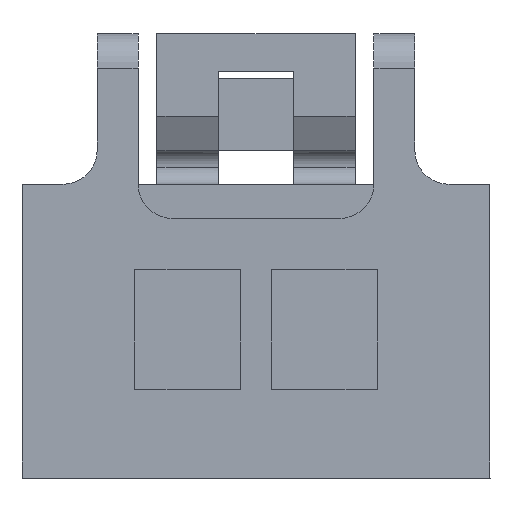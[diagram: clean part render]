
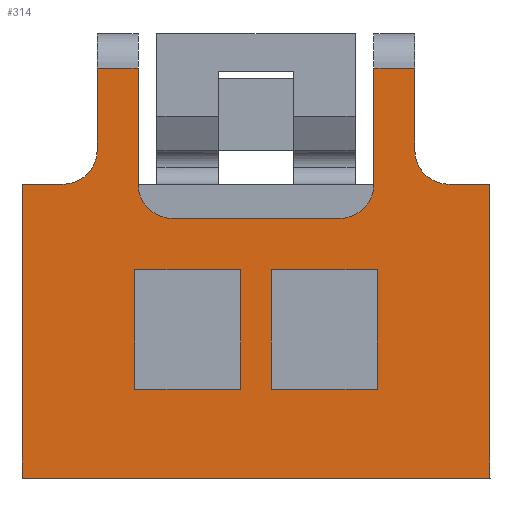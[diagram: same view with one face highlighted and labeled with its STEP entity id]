
A CAD part, left-side view. The second image highlights one B-rep face of the part: STEP entity #314.
In plain terms, the highlighted planar face has unit normal (-1, 0, 0).
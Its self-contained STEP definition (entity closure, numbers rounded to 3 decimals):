
#57=CARTESIAN_POINT('Line Origine',(-21.,-4.65,6.2)) ;
#61=CARTESIAN_POINT('Vertex',(-21.,-4.65,7.4)) ;
#63=CARTESIAN_POINT('Vertex',(-21.,-4.65,5.)) ;
#108=CARTESIAN_POINT('Axis2P3D Location',(-21.,0.,0.)) ;
#113=CARTESIAN_POINT('Axis2P3D Location',(-21.,-2.45,4.)) ;
#117=CARTESIAN_POINT('Vertex',(-21.,-3.45,4.)) ;
#119=CARTESIAN_POINT('Vertex',(-21.,-2.45,3.)) ;
#122=CARTESIAN_POINT('Line Origine',(-21.,0.,3.)) ;
#126=CARTESIAN_POINT('Vertex',(-21.,2.45,3.)) ;
#129=CARTESIAN_POINT('Axis2P3D Location',(-21.,2.45,4.)) ;
#133=CARTESIAN_POINT('Vertex',(-21.,3.45,4.)) ;
#136=CARTESIAN_POINT('Line Origine',(-21.,3.45,5.7)) ;
#140=CARTESIAN_POINT('Vertex',(-21.,3.45,7.4)) ;
#143=CARTESIAN_POINT('Line Origine',(-21.,4.05,7.4)) ;
#147=CARTESIAN_POINT('Vertex',(-21.,4.65,7.4)) ;
#150=CARTESIAN_POINT('Line Origine',(-21.,4.65,6.2)) ;
#154=CARTESIAN_POINT('Vertex',(-21.,4.65,5.)) ;
#158=CARTESIAN_POINT('Control Point',(-21.,5.65,4.)) ;
#159=CARTESIAN_POINT('Control Point',(-21.,5.552,4.)) ;
#160=CARTESIAN_POINT('Control Point',(-21.,5.454,4.012)) ;
#161=CARTESIAN_POINT('Control Point',(-21.,5.358,4.036)) ;
#162=CARTESIAN_POINT('Control Point',(-21.,5.174,4.107)) ;
#163=CARTESIAN_POINT('Control Point',(-21.,5.012,4.22)) ;
#164=CARTESIAN_POINT('Control Point',(-21.,4.939,4.287)) ;
#165=CARTESIAN_POINT('Control Point',(-21.,4.81,4.436)) ;
#166=CARTESIAN_POINT('Control Point',(-21.,4.72,4.612)) ;
#167=CARTESIAN_POINT('Control Point',(-21.,4.687,4.705)) ;
#168=CARTESIAN_POINT('Control Point',(-21.,4.66,4.821)) ;
#169=CARTESIAN_POINT('Control Point',(-21.,4.652,4.939)) ;
#170=CARTESIAN_POINT('Control Point',(-21.,4.651,4.96)) ;
#171=CARTESIAN_POINT('Control Point',(-21.,4.65,4.98)) ;
#172=CARTESIAN_POINT('Control Point',(-21.,4.65,5.)) ;
#173=CARTESIAN_POINT('Vertex',(-21.,5.65,4.)) ;
#176=CARTESIAN_POINT('Line Origine',(-21.,6.25,4.)) ;
#180=CARTESIAN_POINT('Vertex',(-21.,6.85,4.)) ;
#183=CARTESIAN_POINT('Line Origine',(-21.,6.85,-0.3)) ;
#187=CARTESIAN_POINT('Vertex',(-21.,6.85,-4.6)) ;
#190=CARTESIAN_POINT('Line Origine',(-21.,0.,-4.6)) ;
#194=CARTESIAN_POINT('Vertex',(-21.,-6.85,-4.6)) ;
#197=CARTESIAN_POINT('Line Origine',(-21.,-6.85,-0.3)) ;
#201=CARTESIAN_POINT('Vertex',(-21.,-6.85,4.)) ;
#204=CARTESIAN_POINT('Line Origine',(-21.,-6.25,4.)) ;
#208=CARTESIAN_POINT('Vertex',(-21.,-5.65,4.)) ;
#211=CARTESIAN_POINT('Axis2P3D Location',(-21.,-5.65,5.)) ;
#216=CARTESIAN_POINT('Line Origine',(-21.,-4.05,7.4)) ;
#220=CARTESIAN_POINT('Vertex',(-21.,-3.45,7.4)) ;
#223=CARTESIAN_POINT('Line Origine',(-21.,-3.45,5.7)) ;
#246=CARTESIAN_POINT('Line Origine',(-21.,2.,-2.)) ;
#250=CARTESIAN_POINT('Vertex',(-21.,0.45,-2.)) ;
#252=CARTESIAN_POINT('Vertex',(-21.,3.55,-2.)) ;
#255=CARTESIAN_POINT('Line Origine',(-21.,3.55,-0.25)) ;
#259=CARTESIAN_POINT('Vertex',(-21.,3.55,1.5)) ;
#262=CARTESIAN_POINT('Line Origine',(-21.,2.,1.5)) ;
#266=CARTESIAN_POINT('Vertex',(-21.,0.45,1.5)) ;
#269=CARTESIAN_POINT('Line Origine',(-21.,0.45,-0.25)) ;
#280=CARTESIAN_POINT('Line Origine',(-21.,-2.,1.5)) ;
#284=CARTESIAN_POINT('Vertex',(-21.,-3.55,1.5)) ;
#286=CARTESIAN_POINT('Vertex',(-21.,-0.45,1.5)) ;
#289=CARTESIAN_POINT('Line Origine',(-21.,-3.55,-0.25)) ;
#293=CARTESIAN_POINT('Vertex',(-21.,-3.55,-2.)) ;
#296=CARTESIAN_POINT('Line Origine',(-21.,-2.,-2.)) ;
#300=CARTESIAN_POINT('Vertex',(-21.,-0.45,-2.)) ;
#303=CARTESIAN_POINT('Line Origine',(-21.,-0.45,-0.25)) ;
#58=DIRECTION('Vector Direction',(0.,0.,-1.)) ;
#109=DIRECTION('Axis2P3D Direction',(1.,0.,0.)) ;
#110=DIRECTION('Axis2P3D XDirection',(0.,1.,0.)) ;
#114=DIRECTION('Axis2P3D Direction',(1.,0.,0.)) ;
#123=DIRECTION('Vector Direction',(0.,-1.,0.)) ;
#130=DIRECTION('Axis2P3D Direction',(1.,0.,0.)) ;
#137=DIRECTION('Vector Direction',(0.,0.,-1.)) ;
#144=DIRECTION('Vector Direction',(0.,-1.,0.)) ;
#151=DIRECTION('Vector Direction',(0.,0.,-1.)) ;
#177=DIRECTION('Vector Direction',(0.,-1.,0.)) ;
#184=DIRECTION('Vector Direction',(0.,0.,1.)) ;
#191=DIRECTION('Vector Direction',(0.,-1.,0.)) ;
#198=DIRECTION('Vector Direction',(0.,0.,1.)) ;
#205=DIRECTION('Vector Direction',(0.,-1.,0.)) ;
#212=DIRECTION('Axis2P3D Direction',(1.,0.,0.)) ;
#217=DIRECTION('Vector Direction',(0.,-1.,0.)) ;
#224=DIRECTION('Vector Direction',(0.,0.,-1.)) ;
#247=DIRECTION('Vector Direction',(0.,-1.,0.)) ;
#256=DIRECTION('Vector Direction',(0.,0.,-1.)) ;
#263=DIRECTION('Vector Direction',(0.,1.,0.)) ;
#270=DIRECTION('Vector Direction',(0.,0.,1.)) ;
#281=DIRECTION('Vector Direction',(0.,1.,0.)) ;
#290=DIRECTION('Vector Direction',(0.,0.,-1.)) ;
#297=DIRECTION('Vector Direction',(0.,-1.,0.)) ;
#304=DIRECTION('Vector Direction',(0.,0.,1.)) ;
#111=AXIS2_PLACEMENT_3D('Plane Axis2P3D',#108,#109,#110) ;
#115=AXIS2_PLACEMENT_3D('Circle Axis2P3D',#113,#114,$) ;
#131=AXIS2_PLACEMENT_3D('Circle Axis2P3D',#129,#130,$) ;
#213=AXIS2_PLACEMENT_3D('Circle Axis2P3D',#211,#212,$) ;
#229=ORIENTED_EDGE('',*,*,#121,.T.) ;
#230=ORIENTED_EDGE('',*,*,#128,.T.) ;
#231=ORIENTED_EDGE('',*,*,#135,.F.) ;
#232=ORIENTED_EDGE('',*,*,#142,.F.) ;
#233=ORIENTED_EDGE('',*,*,#149,.T.) ;
#234=ORIENTED_EDGE('',*,*,#156,.T.) ;
#235=ORIENTED_EDGE('',*,*,#175,.F.) ;
#236=ORIENTED_EDGE('',*,*,#182,.T.) ;
#237=ORIENTED_EDGE('',*,*,#189,.F.) ;
#238=ORIENTED_EDGE('',*,*,#196,.F.) ;
#239=ORIENTED_EDGE('',*,*,#203,.T.) ;
#240=ORIENTED_EDGE('',*,*,#210,.F.) ;
#241=ORIENTED_EDGE('',*,*,#215,.T.) ;
#242=ORIENTED_EDGE('',*,*,#65,.F.) ;
#243=ORIENTED_EDGE('',*,*,#222,.F.) ;
#244=ORIENTED_EDGE('',*,*,#227,.T.) ;
#275=ORIENTED_EDGE('',*,*,#254,.T.) ;
#276=ORIENTED_EDGE('',*,*,#261,.F.) ;
#277=ORIENTED_EDGE('',*,*,#268,.T.) ;
#278=ORIENTED_EDGE('',*,*,#273,.F.) ;
#309=ORIENTED_EDGE('',*,*,#288,.F.) ;
#310=ORIENTED_EDGE('',*,*,#295,.T.) ;
#311=ORIENTED_EDGE('',*,*,#302,.F.) ;
#312=ORIENTED_EDGE('',*,*,#307,.T.) ;
#279=FACE_BOUND('',#274,.T.) ;
#313=FACE_BOUND('',#308,.T.) ;
#59=VECTOR('Line Direction',#58,1.) ;
#124=VECTOR('Line Direction',#123,1.) ;
#138=VECTOR('Line Direction',#137,1.) ;
#145=VECTOR('Line Direction',#144,1.) ;
#152=VECTOR('Line Direction',#151,1.) ;
#178=VECTOR('Line Direction',#177,1.) ;
#185=VECTOR('Line Direction',#184,1.) ;
#192=VECTOR('Line Direction',#191,1.) ;
#199=VECTOR('Line Direction',#198,1.) ;
#206=VECTOR('Line Direction',#205,1.) ;
#218=VECTOR('Line Direction',#217,1.) ;
#225=VECTOR('Line Direction',#224,1.) ;
#248=VECTOR('Line Direction',#247,1.) ;
#257=VECTOR('Line Direction',#256,1.) ;
#264=VECTOR('Line Direction',#263,1.) ;
#271=VECTOR('Line Direction',#270,1.) ;
#282=VECTOR('Line Direction',#281,1.) ;
#291=VECTOR('Line Direction',#290,1.) ;
#298=VECTOR('Line Direction',#297,1.) ;
#305=VECTOR('Line Direction',#304,1.) ;
#314=ADVANCED_FACE('Body',(#245,#279,#313),#112,.F.) ;
#157=B_SPLINE_CURVE_WITH_KNOTS('',5,(#158,#159,#160,#161,#162,#163,#164,#165,#166,#167,#168,#169,#170,#171,#172),.UNSPECIFIED.,.F.,.U.,(6,3,3,3,6),(0.,0.693,1.386,2.078,2.221),.UNSPECIFIED.) ;
#116=CIRCLE('generated circle',#115,1.) ;
#132=CIRCLE('generated circle',#131,1.) ;
#214=CIRCLE('generated circle',#213,1.) ;
#65=EDGE_CURVE('',#62,#64,#60,.T.) ;
#121=EDGE_CURVE('',#118,#120,#116,.T.) ;
#128=EDGE_CURVE('',#120,#127,#125,.F.) ;
#135=EDGE_CURVE('',#134,#127,#132,.F.) ;
#142=EDGE_CURVE('',#141,#134,#139,.T.) ;
#149=EDGE_CURVE('',#141,#148,#146,.F.) ;
#156=EDGE_CURVE('',#148,#155,#153,.T.) ;
#175=EDGE_CURVE('',#174,#155,#157,.T.) ;
#182=EDGE_CURVE('',#174,#181,#179,.F.) ;
#189=EDGE_CURVE('',#188,#181,#186,.T.) ;
#196=EDGE_CURVE('',#195,#188,#193,.F.) ;
#203=EDGE_CURVE('',#195,#202,#200,.T.) ;
#210=EDGE_CURVE('',#209,#202,#207,.T.) ;
#215=EDGE_CURVE('',#209,#64,#214,.T.) ;
#222=EDGE_CURVE('',#221,#62,#219,.T.) ;
#227=EDGE_CURVE('',#221,#118,#226,.T.) ;
#254=EDGE_CURVE('',#251,#253,#249,.F.) ;
#261=EDGE_CURVE('',#260,#253,#258,.T.) ;
#268=EDGE_CURVE('',#260,#267,#265,.F.) ;
#273=EDGE_CURVE('',#251,#267,#272,.T.) ;
#288=EDGE_CURVE('',#285,#287,#283,.T.) ;
#295=EDGE_CURVE('',#285,#294,#292,.T.) ;
#302=EDGE_CURVE('',#301,#294,#299,.T.) ;
#307=EDGE_CURVE('',#301,#287,#306,.T.) ;
#228=EDGE_LOOP('',(#229,#230,#231,#232,#233,#234,#235,#236,#237,#238,#239,#240,#241,#242,#243,#244)) ;
#274=EDGE_LOOP('',(#275,#276,#277,#278)) ;
#308=EDGE_LOOP('',(#309,#310,#311,#312)) ;
#245=FACE_OUTER_BOUND('',#228,.T.) ;
#60=LINE('Line',#57,#59) ;
#125=LINE('Line',#122,#124) ;
#139=LINE('Line',#136,#138) ;
#146=LINE('Line',#143,#145) ;
#153=LINE('Line',#150,#152) ;
#179=LINE('Line',#176,#178) ;
#186=LINE('Line',#183,#185) ;
#193=LINE('Line',#190,#192) ;
#200=LINE('Line',#197,#199) ;
#207=LINE('Line',#204,#206) ;
#219=LINE('Line',#216,#218) ;
#226=LINE('Line',#223,#225) ;
#249=LINE('Line',#246,#248) ;
#258=LINE('Line',#255,#257) ;
#265=LINE('Line',#262,#264) ;
#272=LINE('Line',#269,#271) ;
#283=LINE('Line',#280,#282) ;
#292=LINE('Line',#289,#291) ;
#299=LINE('Line',#296,#298) ;
#306=LINE('Line',#303,#305) ;
#112=PLANE('',#111) ;
#62=VERTEX_POINT('',#61) ;
#64=VERTEX_POINT('',#63) ;
#118=VERTEX_POINT('',#117) ;
#120=VERTEX_POINT('',#119) ;
#127=VERTEX_POINT('',#126) ;
#134=VERTEX_POINT('',#133) ;
#141=VERTEX_POINT('',#140) ;
#148=VERTEX_POINT('',#147) ;
#155=VERTEX_POINT('',#154) ;
#174=VERTEX_POINT('',#173) ;
#181=VERTEX_POINT('',#180) ;
#188=VERTEX_POINT('',#187) ;
#195=VERTEX_POINT('',#194) ;
#202=VERTEX_POINT('',#201) ;
#209=VERTEX_POINT('',#208) ;
#221=VERTEX_POINT('',#220) ;
#251=VERTEX_POINT('',#250) ;
#253=VERTEX_POINT('',#252) ;
#260=VERTEX_POINT('',#259) ;
#267=VERTEX_POINT('',#266) ;
#285=VERTEX_POINT('',#284) ;
#287=VERTEX_POINT('',#286) ;
#294=VERTEX_POINT('',#293) ;
#301=VERTEX_POINT('',#300) ;
